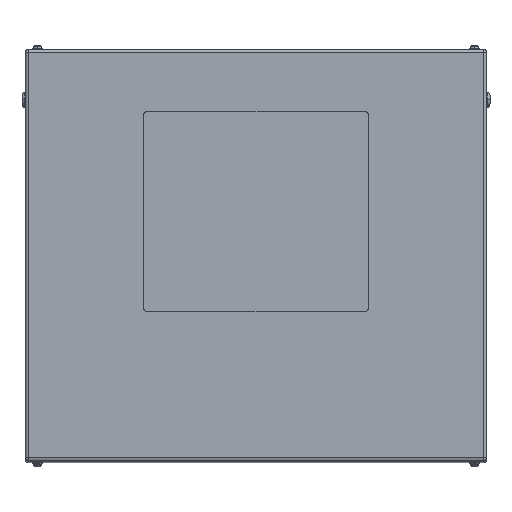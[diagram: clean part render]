
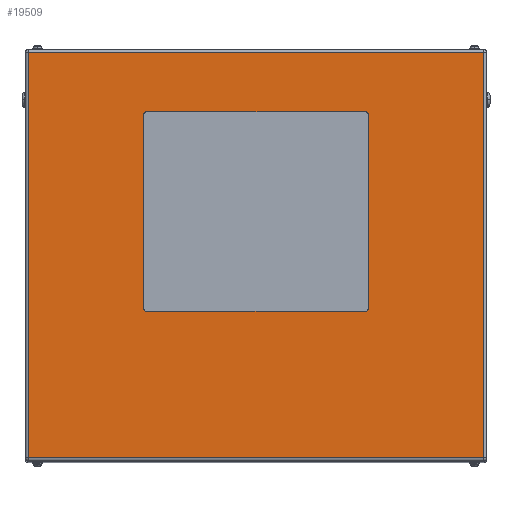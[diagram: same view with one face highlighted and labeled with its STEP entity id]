
A CAD part, top view. The second image highlights one B-rep face of the part: STEP entity #19509.
In plain terms, the highlighted planar face has unit normal (0, 0, 1).
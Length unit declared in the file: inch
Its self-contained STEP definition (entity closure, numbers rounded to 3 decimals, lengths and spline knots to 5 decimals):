
#197 = DIRECTION ( 'NONE',  ( 1., 0., 0. ) ) ;
#412 = DIRECTION ( 'NONE',  ( 1., 0., 0. ) ) ;
#503 = EDGE_CURVE ( 'NONE', #19158, #8062, #10832, .T. ) ;
#602 = VECTOR ( 'NONE', #12695, 39.37008 ) ;
#603 = VERTEX_POINT ( 'NONE', #12574 ) ;
#701 = VECTOR ( 'NONE', #9009, 39.37008 ) ;
#723 = CARTESIAN_POINT ( 'NONE',  ( 9., 11.25, 33.5 ) ) ;
#1073 = ORIENTED_EDGE ( 'NONE', *, *, #1988, .F. ) ;
#1175 = EDGE_CURVE ( 'NONE', #2514, #19309, #18218, .T. ) ;
#1268 = VECTOR ( 'NONE', #8464, 39.37008 ) ;
#1480 = EDGE_CURVE ( 'NONE', #4167, #15603, #12966, .T. ) ;
#1667 = LINE ( 'NONE', #7587, #701 ) ;
#1703 = VERTEX_POINT ( 'NONE', #10368 ) ;
#1899 = ORIENTED_EDGE ( 'NONE', *, *, #15294, .F. ) ;
#1988 = EDGE_CURVE ( 'NONE', #5577, #2514, #18986, .T. ) ;
#2202 = VECTOR ( 'NONE', #6294, 39.37008 ) ;
#2295 = EDGE_CURVE ( 'NONE', #16363, #5950, #7184, .T. ) ;
#2514 = VERTEX_POINT ( 'NONE', #8536 ) ;
#2622 = EDGE_CURVE ( 'NONE', #5950, #4167, #17331, .T. ) ;
#2904 = DIRECTION ( 'NONE',  ( 0., 0., -1. ) ) ;
#3049 = CIRCLE ( 'NONE', #14702, 0.25 ) ;
#3502 = EDGE_CURVE ( 'NONE', #1703, #603, #12323, .T. ) ;
#4167 = VERTEX_POINT ( 'NONE', #11618 ) ;
#4230 = PLANE ( 'NONE',  #6096 ) ;
#4298 = VECTOR ( 'NONE', #19249, 39.37008 ) ;
#4307 = EDGE_LOOP ( 'NONE', ( #10153, #4540, #12976, #9800 ) ) ;
#4540 = ORIENTED_EDGE ( 'NONE', *, *, #14818, .T. ) ;
#4753 = CARTESIAN_POINT ( 'NONE',  ( 8.75, 11.5, 33.5 ) ) ;
#4838 = CARTESIAN_POINT ( 'NONE',  ( -8.75, -4.25, 33.5 ) ) ;
#4938 = EDGE_CURVE ( 'NONE', #19309, #19158, #1667, .T. ) ;
#4942 = VECTOR ( 'NONE', #10624, 39.37008 ) ;
#5009 = CARTESIAN_POINT ( 'NONE',  ( 18.234, 16.5, 33.5 ) ) ;
#5492 = ORIENTED_EDGE ( 'NONE', *, *, #14302, .F. ) ;
#5577 = VERTEX_POINT ( 'NONE', #4753 ) ;
#5738 = DIRECTION ( 'NONE',  ( 0., 1., 0. ) ) ;
#5908 = ORIENTED_EDGE ( 'NONE', *, *, #10385, .F. ) ;
#5950 = VERTEX_POINT ( 'NONE', #7403 ) ;
#6096 = AXIS2_PLACEMENT_3D ( 'NONE', #19515, #2904, #15095 ) ;
#6294 = DIRECTION ( 'NONE',  ( 0., 1., 0. ) ) ;
#6712 = DIRECTION ( 'NONE',  ( 1., 0., 0. ) ) ;
#6754 = CARTESIAN_POINT ( 'NONE',  ( -9., 11.25, 33.5 ) ) ;
#6849 = AXIS2_PLACEMENT_3D ( 'NONE', #17491, #9142, #197 ) ;
#7184 = LINE ( 'NONE', #5009, #2202 ) ;
#7398 = ORIENTED_EDGE ( 'NONE', *, *, #1175, .F. ) ;
#7403 = CARTESIAN_POINT ( 'NONE',  ( 18.234, 16.234, 33.5 ) ) ;
#7587 = CARTESIAN_POINT ( 'NONE',  ( -9., 11.25, 33.5 ) ) ;
#7661 = VERTEX_POINT ( 'NONE', #723 ) ;
#7733 = DIRECTION ( 'NONE',  ( -1., 0., 0. ) ) ;
#8062 = VERTEX_POINT ( 'NONE', #19598 ) ;
#8464 = DIRECTION ( 'NONE',  ( -1., 0., 0. ) ) ;
#8536 = CARTESIAN_POINT ( 'NONE',  ( -8.75, 11.5, 33.5 ) ) ;
#8539 = AXIS2_PLACEMENT_3D ( 'NONE', #4838, #18345, #412 ) ;
#8714 = LINE ( 'NONE', #11120, #18146 ) ;
#8944 = CARTESIAN_POINT ( 'NONE',  ( -8.75, 11.25, 33.5 ) ) ;
#9009 = DIRECTION ( 'NONE',  ( 0., -1., 0. ) ) ;
#9038 = LINE ( 'NONE', #17751, #4298 ) ;
#9142 = DIRECTION ( 'NONE',  ( 0., 0., 1. ) ) ;
#9800 = ORIENTED_EDGE ( 'NONE', *, *, #2622, .T. ) ;
#10070 = EDGE_LOOP ( 'NONE', ( #1899, #18595, #17219, #7398, #1073, #5908, #5492, #13941 ) ) ;
#10153 = ORIENTED_EDGE ( 'NONE', *, *, #1480, .T. ) ;
#10241 = LINE ( 'NONE', #11818, #11196 ) ;
#10368 = CARTESIAN_POINT ( 'NONE',  ( 8.75, -4.5, 33.5 ) ) ;
#10385 = EDGE_CURVE ( 'NONE', #7661, #5577, #3049, .T. ) ;
#10624 = DIRECTION ( 'NONE',  ( 0., -1., 0. ) ) ;
#10719 = CARTESIAN_POINT ( 'NONE',  ( -9., -4.25, 33.5 ) ) ;
#10752 = CARTESIAN_POINT ( 'NONE',  ( 8.75, 11.25, 33.5 ) ) ;
#10832 = CIRCLE ( 'NONE', #8539, 0.25 ) ;
#11120 = CARTESIAN_POINT ( 'NONE',  ( -8.75, -4.5, 33.5 ) ) ;
#11137 = DIRECTION ( 'NONE',  ( 0., 0., 1. ) ) ;
#11196 = VECTOR ( 'NONE', #5738, 39.37008 ) ;
#11618 = CARTESIAN_POINT ( 'NONE',  ( -18.234, 16.234, 33.5 ) ) ;
#11818 = CARTESIAN_POINT ( 'NONE',  ( 9., 11.25, 33.5 ) ) ;
#11990 = DIRECTION ( 'NONE',  ( 1., 0., 0. ) ) ;
#12323 = CIRCLE ( 'NONE', #6849, 0.25 ) ;
#12574 = CARTESIAN_POINT ( 'NONE',  ( 9., -4.25, 33.5 ) ) ;
#12695 = DIRECTION ( 'NONE',  ( -1., 0., 0. ) ) ;
#12966 = LINE ( 'NONE', #13592, #4942 ) ;
#12976 = ORIENTED_EDGE ( 'NONE', *, *, #2295, .T. ) ;
#13100 = AXIS2_PLACEMENT_3D ( 'NONE', #8944, #19474, #11990 ) ;
#13592 = CARTESIAN_POINT ( 'NONE',  ( -18.234, 16.5, 33.5 ) ) ;
#13941 = ORIENTED_EDGE ( 'NONE', *, *, #3502, .F. ) ;
#14053 = CARTESIAN_POINT ( 'NONE',  ( 18.234, -16.234, 33.5 ) ) ;
#14302 = EDGE_CURVE ( 'NONE', #603, #7661, #10241, .T. ) ;
#14702 = AXIS2_PLACEMENT_3D ( 'NONE', #10752, #11137, #7733 ) ;
#14818 = EDGE_CURVE ( 'NONE', #15603, #16363, #9038, .T. ) ;
#15095 = DIRECTION ( 'NONE',  ( -1., 0., 0. ) ) ;
#15294 = EDGE_CURVE ( 'NONE', #8062, #1703, #8714, .T. ) ;
#15600 = FACE_BOUND ( 'NONE', #10070, .T. ) ;
#15603 = VERTEX_POINT ( 'NONE', #17489 ) ;
#15709 = CARTESIAN_POINT ( 'NONE',  ( -8.75, 11.5, 33.5 ) ) ;
#16363 = VERTEX_POINT ( 'NONE', #14053 ) ;
#16777 = FACE_OUTER_BOUND ( 'NONE', #4307, .T. ) ;
#17219 = ORIENTED_EDGE ( 'NONE', *, *, #4938, .F. ) ;
#17331 = LINE ( 'NONE', #17410, #1268 ) ;
#17410 = CARTESIAN_POINT ( 'NONE',  ( 18.5, 16.234, 33.5 ) ) ;
#17489 = CARTESIAN_POINT ( 'NONE',  ( -18.234, -16.234, 33.5 ) ) ;
#17491 = CARTESIAN_POINT ( 'NONE',  ( 8.75, -4.25, 33.5 ) ) ;
#17751 = CARTESIAN_POINT ( 'NONE',  ( 18.234, -16.234, 33.5 ) ) ;
#18146 = VECTOR ( 'NONE', #6712, 39.37008 ) ;
#18218 = CIRCLE ( 'NONE', #13100, 0.25 ) ;
#18345 = DIRECTION ( 'NONE',  ( 0., 0., 1. ) ) ;
#18595 = ORIENTED_EDGE ( 'NONE', *, *, #503, .F. ) ;
#18986 = LINE ( 'NONE', #15709, #602 ) ;
#19158 = VERTEX_POINT ( 'NONE', #10719 ) ;
#19249 = DIRECTION ( 'NONE',  ( 1., 0., 0. ) ) ;
#19309 = VERTEX_POINT ( 'NONE', #6754 ) ;
#19474 = DIRECTION ( 'NONE',  ( 0., 0., 1. ) ) ;
#19509 = ADVANCED_FACE ( 'NONE', ( #15600, #16777 ), #4230, .F. ) ;
#19515 = CARTESIAN_POINT ( 'NONE',  ( 18.5, 16.5, 33.5 ) ) ;
#19598 = CARTESIAN_POINT ( 'NONE',  ( -8.75, -4.5, 33.5 ) ) ;
